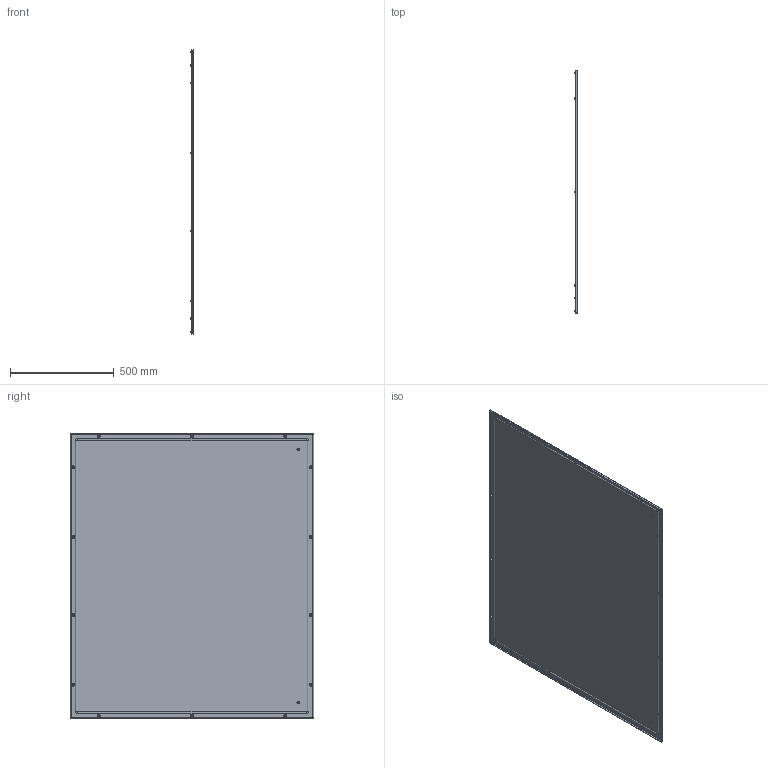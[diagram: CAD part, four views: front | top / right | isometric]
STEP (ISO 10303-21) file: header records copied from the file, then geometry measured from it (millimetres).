
FILE_DESCRIPTION(('STEP AP203'), '1');
FILE_NAME('3302 眈翴錪 捘', '', ('UNSPECIFIED'), ('UNSPECIFIED'), 'C3D Converter', 'C3D Toolkit', '');
FILE_SCHEMA(('CONFIG_CONTROL_DESIGN'));
Length unit declared in the file: millimetre
Products named in the file (4): 3302.140.120 СБ; 3211
Assembly tree (17 placements, depth 2):
  3302.140.120 СБ
    3211
    (unnamed)  x2
    (unnamed)  x14
Bounding box: 17.5 x 1173 x 1371 mm (x, y, z)
Volume: 2656241.3 mm3; surface area: 3459174.9 mm2
Topology: 18 solids, 18 shells, 535 faces, 1386 edges, 962 vertices
Faces by surface type: plane 371, cylinder 72, cone 58, torus 34
Full cylindrical faces by diameter (mm): 5 x14, 6 x16, 9.2 x14, 11.5 x4
Entity records: 6339 total; most frequent: CARTESIAN_POINT 1777, DIRECTION 854, ORIENTED_EDGE 612, AXIS2_PLACEMENT_3D 353, EDGE_CURVE 306, EDGE_LOOP 304, VERTEX_POINT 234, ADVANCED_FACE 177
